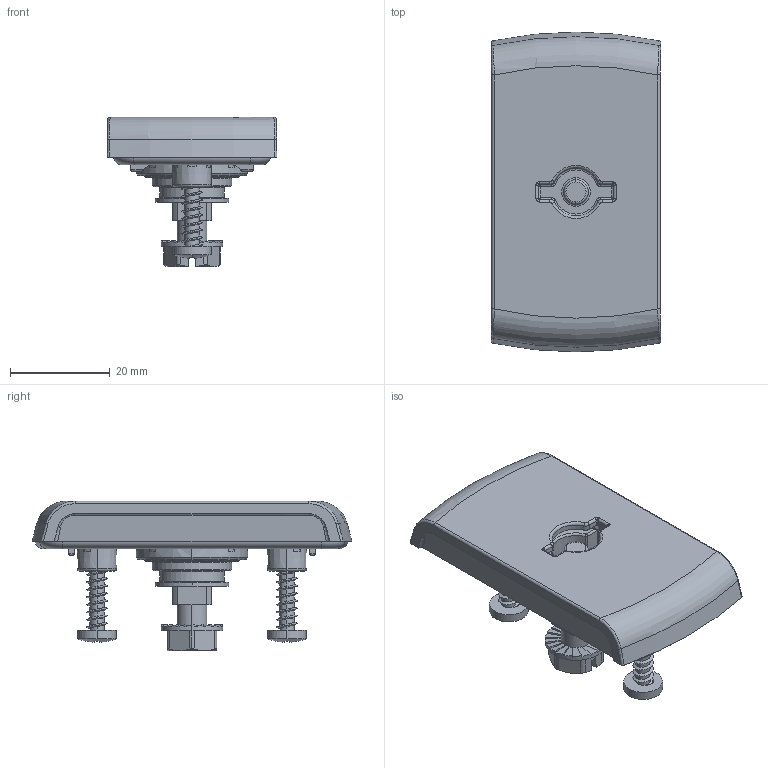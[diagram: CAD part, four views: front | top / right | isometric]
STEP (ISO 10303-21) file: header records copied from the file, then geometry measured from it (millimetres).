
FILE_DESCRIPTION (( 'STEP AP214' ), '1' );
FILE_NAME ('1B.RW125.M.STEP', '2022-02-04T07:30:18', ( '' ), ( '' ), 'SwSTEP 2.0', 'SolidWorks 2021', '' );
FILE_SCHEMA (( 'AUTOMOTIVE_DESIGN' ));
Length unit declared in the file: millimetre
Products named in the file (7): DIN 7981_F.4.1x22; S6PZ_M6x10; 2.PT.001_A; DIN 3771_16x2; P.014951_00-00; P.014991_00-01; 1B.RW125.M
Assembly tree (7 placements, depth 2):
  1B.RW125.M
    P.014991_00-01
    P.014951_00-00
    2.PT.001_A
    DIN 3771_16x2
    DIN 7981_F.4.1x22  x2
    S6PZ_M6x10
Bounding box: 34 x 64 x 29.9 mm (x, y, z)
Volume: 15370.2 mm3; surface area: 15791.4 mm2
Topology: 8 solids, 8 shells, 1173 faces, 2814 edges, 1677 vertices
Faces by surface type: plane 350, cylinder 248, bspline 213, torus 140, sphere 120, cone 102
Entity records: 38823 total; most frequent: CARTESIAN_POINT 14747, ORIENTED_EDGE 5258, DIRECTION 4707, EDGE_CURVE 2629, AXIS2_PLACEMENT_3D 1879, VERTEX_POINT 1557, EDGE_LOOP 1140, ADVANCED_FACE 1109
